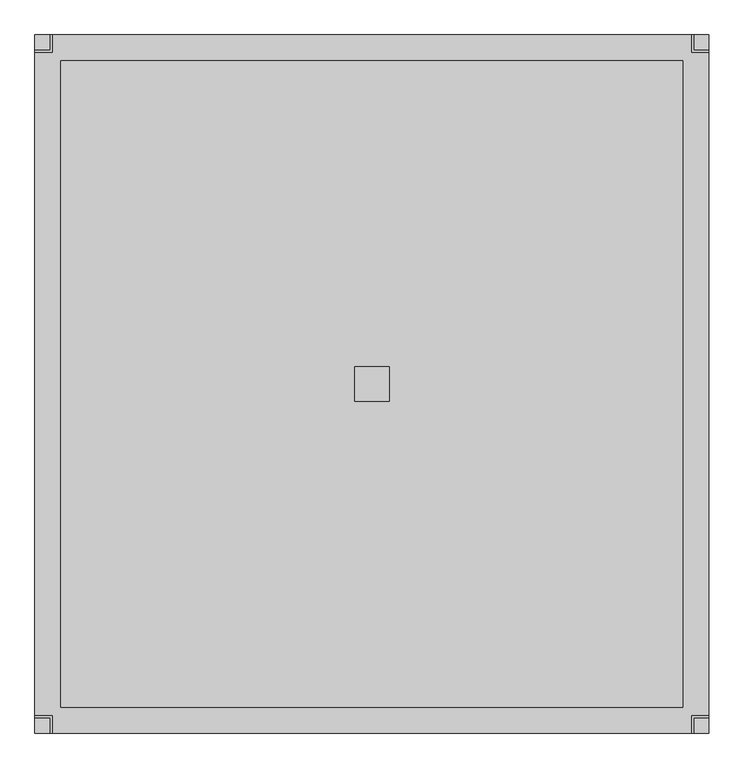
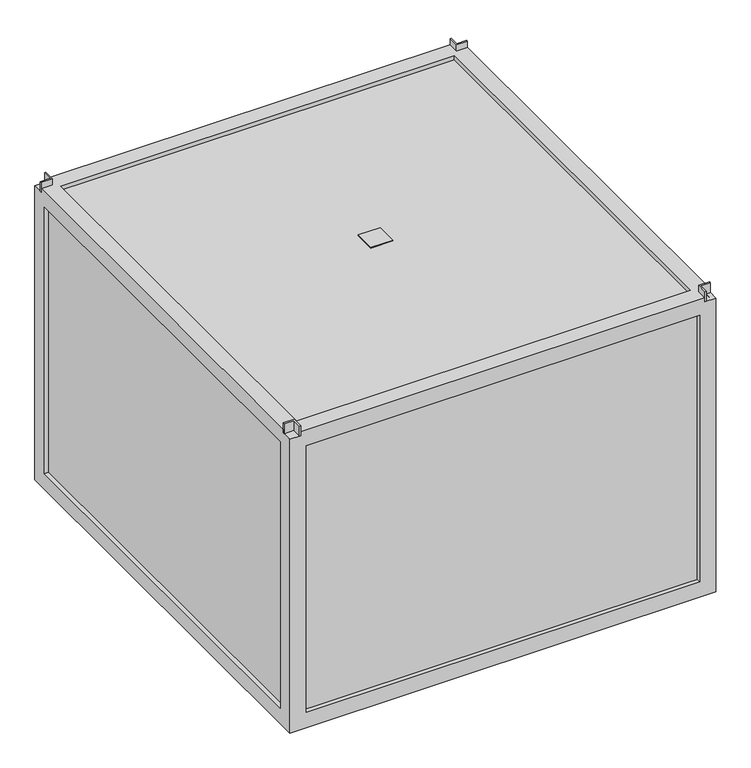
"""IFC4 building model written with IfcOpenShell, lengths in millimetres: proxy geometry, KORF_Вентилятор_UTR_WRH : UTR 80-50 WRH 40.4D."""

import ifcopenshell
import ifcopenshell.guid

model = None  # the IFC model being written
_history = None  # IfcOwnerHistory: only IFC2X3 demands one
_inside = {}  # id of a spatial element -> (the spatial element, [elements in it])
_under = {}  # id of a project, library or spatial element -> (it, [spatial elements below it])
_declared = {}  # id of a project -> (the project, [libraries it declares])
_typed = {}  # id of a type object -> (the type object, [elements of that type])
_made_of = {}  # id of a material, layer set ... -> (it, [elements and type objects made of it])


def new_model(schema):
    """Start an empty IFC model of exactly this schema.

    Asked for "IFC4X3", IfcOpenShell would pick the latest addendum, in which some entities
    have other attributes; the version numbers below select the first issue.
    IFC2X3 requires an IfcOwnerHistory on every rooted entity: one is made here for all.
    """
    global model, _history
    if schema == "IFC4X3":
        model = ifcopenshell.file(schema_version=(4, 3, 0, 0))
    else:
        model = ifcopenshell.file(schema=schema)
    _inside.clear()
    _under.clear()
    _declared.clear()
    _typed.clear()
    _made_of.clear()
    _history = None
    if model.schema == "IFC2X3":
        org = make("IfcOrganization", Name="unknown")
        user = make(
            "IfcPersonAndOrganization",
            ThePerson=make("IfcPerson", FamilyName="unknown"),
            TheOrganization=org,
        )
        app = make(
            "IfcApplication",
            ApplicationDeveloper=org,
            Version="unknown",
            ApplicationFullName="unknown",
            ApplicationIdentifier="unknown",
        )
        _history = make(
            "IfcOwnerHistory",
            OwningUser=user,
            OwningApplication=app,
            ChangeAction="ADDED",
            CreationDate=0,
        )
    return model


def make(cls, **values):
    """One entity of the class cls with the attributes given. An attribute that is None is left unset."""
    return model.create_entity(
        cls, **{name: value for name, value in values.items() if value is not None}
    )


def rooted(cls, **values):
    """An entity with a GlobalId (a new one), such as an element, a storey or a relation."""
    return make(cls, GlobalId=ifcopenshell.guid.new(), OwnerHistory=_history, **values)


def si_unit(unit_type, name, prefix=None):
    """IfcSIUnit, for example si_unit("LENGTHUNIT", "METRE", prefix="MILLI")."""
    return make("IfcSIUnit", UnitType=unit_type, Prefix=prefix, Name=name)


def assignment(units):
    """IfcUnitAssignment: the units of a project."""
    return None if units is None else make("IfcUnitAssignment", Units=units)


def point(xyz):
    """IfcCartesianPoint."""
    return None if xyz is None else make("IfcCartesianPoint", Coordinates=xyz)


def direction(xyz):
    """IfcDirection."""
    return None if xyz is None else make("IfcDirection", DirectionRatios=xyz)


def frame(location, z_axis=None, x_axis=None):
    """IfcAxis2Placement3D, a coordinate frame: its origin and axes. An axis left out is left unset."""
    return make(
        "IfcAxis2Placement3D",
        Location=point(location),
        Axis=direction(z_axis),
        RefDirection=direction(x_axis),
    )


def origin():
    """The frame at (0, 0, 0) with its axes left unset."""
    return frame((0.0, 0.0, 0.0))


def place(relative_to, where):
    """IfcLocalPlacement: puts the frame where relative to a parent placement (None: the world)."""
    return make(
        "IfcLocalPlacement", PlacementRelTo=relative_to, RelativePlacement=where
    )


def context(
    kind, dimensions, precision=None, world=None, true_north=None, identifier=None
):
    """IfcGeometricRepresentationContext, for example the 3D "Model" context."""
    return make(
        "IfcGeometricRepresentationContext",
        ContextIdentifier=identifier,
        ContextType=kind,
        CoordinateSpaceDimension=dimensions,
        Precision=precision,
        WorldCoordinateSystem=world,
        TrueNorth=true_north,
    )


def project(units=None, contexts=None):
    """IfcProject with its units and contexts."""
    return rooted(
        "IfcProject",
        Name="project",
        RepresentationContexts=contexts,
        UnitsInContext=assignment(units),
    )


def spatial(cls, under=None, at=None, **own):
    """A site, building, storey or space (cls), placed at a placement, below another one or the project."""
    s = rooted(cls, ObjectPlacement=at, **own)
    if under is not None:
        _under.setdefault(under.id(), (under, []))[1].append(s)
    return s


def polyline(points):
    """IfcPolyline through the points."""
    return make("IfcPolyline", Points=[point(p) for p in points])


def outline(outer, holes=None, kind="AREA"):
    """IfcArbitraryClosedProfileDef: a profile drawn as a closed curve; with holes, ...WithVoids."""
    if holes is None:
        return make("IfcArbitraryClosedProfileDef", ProfileType=kind, OuterCurve=outer)
    return make(
        "IfcArbitraryProfileDefWithVoids",
        ProfileType=kind,
        OuterCurve=outer,
        InnerCurves=holes,
    )


def extrude(swept, where, along, depth):
    """IfcExtrudedAreaSolid: the profile swept, set in the frame where, extruded along a direction by depth."""
    return make(
        "IfcExtrudedAreaSolid",
        SweptArea=swept,
        Position=where,
        ExtrudedDirection=direction(along),
        Depth=depth,
    )


def faces_of(points, faces, orient=None, outer=None):
    """IfcFace entities. A face is a list of loops; a loop is a list of indices into points, from 0.

    orient and outer hold one flag for each loop. By default every Orientation is true, the
    first loop of a face is its IfcFaceOuterBound and the others are IfcFaceBound.
    """
    made = []
    for i, loops in enumerate(faces):
        bounds = []
        for j, loop in enumerate(loops):
            is_outer = j == 0 if outer is None else outer[i][j]
            bounds.append(
                make(
                    "IfcFaceOuterBound" if is_outer else "IfcFaceBound",
                    Bound=make("IfcPolyLoop", Polygon=[points[k] for k in loop]),
                    Orientation=True if orient is None else orient[i][j],
                )
            )
        made.append(make("IfcFace", Bounds=bounds))
    return made


def faceted_brep(points, faces, orient=None, outer=None, voids=None):
    """IfcFacetedBrep: a solid bounded by flat faces; with voids (closed shells), ...WithVoids."""
    shared = [point(p) for p in points]
    hull = make("IfcClosedShell", CfsFaces=faces_of(shared, faces, orient, outer))
    if voids is None:
        return make("IfcFacetedBrep", Outer=hull)
    return make(
        "IfcFacetedBrepWithVoids",
        Outer=hull,
        Voids=[
            make(cls, CfsFaces=faces_of(shared, fs, o, b)) for cls, fs, o, b in voids
        ],
    )


def shape(context_of_items, identifier, shape_type, items):
    """IfcShapeRepresentation: the items that make up one representation, for example the "Body"."""
    return make(
        "IfcShapeRepresentation",
        ContextOfItems=context_of_items,
        RepresentationIdentifier=identifier,
        RepresentationType=shape_type,
        Items=items,
    )


def source(mapping_origin, context_of_items, identifier, shape_type, items):
    """IfcRepresentationMap: a shape defined once, which mapped items show again and again."""
    return make(
        "IfcRepresentationMap",
        MappingOrigin=mapping_origin,
        MappedRepresentation=shape(context_of_items, identifier, shape_type, items),
    )


def transform(
    local_origin,
    x_axis=None,
    y_axis=None,
    z_axis=None,
    scale=None,
    scale2=None,
    scale3=None,
    uniform=True,
):
    """IfcCartesianTransformationOperator3D, or its non-uniform kind. x_axis, y_axis, z_axis: its Axis1, 2, 3."""
    if uniform:
        return make(
            "IfcCartesianTransformationOperator3D",
            Axis1=direction(x_axis),
            Axis2=direction(y_axis),
            LocalOrigin=point(local_origin),
            Scale=scale,
            Axis3=direction(z_axis),
        )
    return make(
        "IfcCartesianTransformationOperator3DnonUniform",
        Axis1=direction(x_axis),
        Axis2=direction(y_axis),
        LocalOrigin=point(local_origin),
        Scale=scale,
        Axis3=direction(z_axis),
        Scale2=scale2,
        Scale3=scale3,
    )


def mapped(mapping_source, mapping_target):
    """IfcMappedItem: shows the shape of a source again, moved by a transform."""
    return make(
        "IfcMappedItem", MappingSource=mapping_source, MappingTarget=mapping_target
    )


def made_of(thing, what):
    """Note that an element or type object is made of a material, layer set ...; save() writes the relation."""
    if what is not None:
        _made_of.setdefault(what.id(), (what, []))[1].append(thing)
    return thing


def element(
    cls,
    number,
    at=None,
    inside=None,
    cuts=None,
    type_object=None,
    material=None,
    context=None,
    identifier="Body",
    shape_type=None,
    held_by="IfcProductDefinitionShape",
    body=None,
    shapes=None,
    **own,
):
    """One element of the class cls, such as IfcWall. Its Tag is "e" and its number.

    at: its placement. inside: the storey or other place that contains it. cuts: it is an
    opening in that element (IfcRelVoidsElement). A single representation is given by context,
    identifier, shape_type and body (its items); several are given by shapes. held_by: the class
    of the entity that holds the representations. save() writes the other relations.
    """
    e = rooted(cls, Tag="e%d" % number, ObjectPlacement=at, **own)
    if body is not None:
        shapes = [shape(context, identifier, shape_type, body)]
    if shapes is not None:
        e.Representation = make(held_by, Representations=shapes)
    if inside is not None:
        _inside.setdefault(inside.id(), (inside, []))[1].append(e)
    if cuts is not None:
        rooted(
            "IfcRelVoidsElement", RelatingBuildingElement=cuts, RelatedOpeningElement=e
        )
    if type_object is not None:
        _typed.setdefault(type_object.id(), (type_object, []))[1].append(e)
    return made_of(e, material)


def aggregate(whole, parts):
    """IfcRelAggregates: a whole, such as a stair, and the parts it consists of."""
    return rooted("IfcRelAggregates", RelatingObject=whole, RelatedObjects=parts)


def save(model, path):
    """Write the relations noted so far, then the file.

    IfcRelAggregates (storeys below a building ...), IfcRelContainedInSpatialStructure (elements
    in a storey), IfcRelDefinesByType, IfcRelAssociatesMaterial and IfcRelDeclares: one each for
    every whole, place, type object, material and project.
    """
    for whole, parts in _under.values():
        aggregate(whole, parts)
    for where, things in _inside.values():
        rooted(
            "IfcRelContainedInSpatialStructure",
            RelatedElements=things,
            RelatingStructure=where,
        )
    for kind, things in _typed.values():
        rooted("IfcRelDefinesByType", RelatedObjects=things, RelatingType=kind)
    for what, things in _made_of.values():
        rooted("IfcRelAssociatesMaterial", RelatedObjects=things, RelatingMaterial=what)
    for by, libraries in _declared.values():
        rooted("IfcRelDeclares", RelatingContext=by, RelatedDefinitions=libraries)
    model.write(path)


def mechanical_equipment_02dd2566(model_context):
    return source(origin(), model_context, "Body", "SolidModel", [
        extrude(outline(polyline([(462.5, -25.0), (462.5, 25.0), (512.5, 25.0), (512.5, -25.0), (462.5, -25.0)])), frame((0.0, 0.0, 360.0), z_axis=(0.0, 0.0, 1.0), x_axis=(1.0, 0.0, 0.0)), (0.0, 0.0, 1.0), 2.0),
        extrude(outline(polyline([(25.0, 480.0), (0.0, 480.0), (0.0, 483.0), (22.0, 483.0), (22.0, 505.0), (25.0, 505.0), (25.0, 480.0)])), frame((0.0, 0.0, 351.0), z_axis=(0.0, 0.0, 1.0), x_axis=(1.0, 0.0, 0.0)), (0.0, 0.0, 1.0), 24.0),
        extrude(outline(polyline([(950.0, 480.0), (950.0, 505.0), (953.0, 505.0), (953.0, 483.0), (975.0, 483.0), (975.0, 480.0), (950.0, 480.0)])), frame((0.0, 0.0, 351.0), z_axis=(0.0, 0.0, 1.0), x_axis=(1.0, 0.0, 0.0)), (0.0, 0.0, 1.0), 24.0),
        extrude(outline(polyline([(25.0, -480.0), (25.0, -505.0), (22.0, -505.0), (22.0, -483.0), (0.0, -483.0), (0.0, -480.0), (25.0, -480.0)])), frame((0.0, 0.0, 351.0), z_axis=(0.0, 0.0, 1.0), x_axis=(1.0, 0.0, 0.0)), (0.0, 0.0, 1.0), 24.0),
        extrude(outline(polyline([(950.0, -480.0), (975.0, -480.0), (975.0, -483.0), (953.0, -483.0), (953.0, -505.0), (950.0, -505.0), (950.0, -480.0)])), frame((0.0, 0.0, 351.0), z_axis=(0.0, 0.0, 1.0), x_axis=(1.0, 0.0, 0.0)), (0.0, 0.0, 1.0), 24.0),
        extrude(outline(polyline([(965.0, 495.0), (965.0, -495.0), (10.0, -495.0), (10.0, 495.0), (965.0, 495.0)])), frame((0.0, 0.0, -350.0), z_axis=(0.0, 0.0, 1.0), x_axis=(1.0, 0.0, 0.0)), (0.0, 0.0, 1.0), 700.0),
        faceted_brep([(0.0, -504.9999993, -359.9999993), (975.0, -504.9999993, -359.9999993), (974.9999993, -504.9999993, 351.0), (950.0, -504.9999993, 351.0), (950.0, -504.9999993, 360.0), (25.0, -504.9999993, 359.9999993), (25.0, -504.9999993, 351.0), (0.0, -504.9999993, 351.0), (37.5, -504.9999993, -322.4999993), (37.5, -504.9999993, 322.5), (937.4999993, -504.9999993, 322.5), (937.4999993, -504.9999993, -322.4999993), (10.000001, -494.9999993, -349.9999993), (10.000001, -494.9999993, 349.9999993), (964.9999993, -494.9999993, 349.999999), (964.999999, -494.9999993, -349.9999993), (37.5, -494.9999993, 322.5), (37.5, -494.9999993, -322.4999993), (937.4999993, -494.9999993, -322.4999993), (937.4999993, -494.9999993, 322.5), (0.0, -467.4999993, 322.4999993), (10.000001, -467.4999993, 322.4999993), (10.000001, -467.4999993, -322.4999993), (0.0, -467.4999993, -322.4999993), (0.0, 504.9999993, -359.9999993), (975.0, 505.0, -359.9999993), (937.5, -467.5, -359.9999993), (937.5, 467.5, -359.9999993), (37.5, 467.5, -359.9999993), (37.5, -467.5, -359.9999993), (10.000001, 494.9999993, -349.9999993), (964.999999, 494.999999, -349.9999993), (937.5, 467.5, -349.9999993), (937.5, -467.5, -349.9999993), (37.5, -467.5, -349.9999993), (37.5, 467.5, -349.9999993), (10.000001, 467.4999993, -322.4999993), (0.0, 467.4999993, -322.4999993), (0.0, 504.9999993, 351.0), (25.0, 504.9999993, 351.0), (25.0, 504.9999993, 359.9999993), (950.0, 504.9999993, 360.0), (950.0, 504.9999993, 351.0), (974.9999993, 504.9999993, 351.0), (37.5, 504.9999993, 322.5), (37.5, 504.9999993, -322.4999993), (937.4999993, 504.9999993, -322.4999993), (937.4999993, 504.9999993, 322.5), (10.000001, 494.9999993, 349.9999993), (964.9999993, 494.9999993, 349.999999), (37.5, 494.9999993, -322.4999993), (37.5, 494.9999993, 322.5), (937.4999993, 494.9999993, 322.5), (937.4999993, 494.9999993, -322.4999993), (10.000001, 467.4999993, 322.4999993), (0.0, 467.4999993, 322.4999993), (0.0, -480.0, 351.0), (0.0, -480.0, 359.9999993), (0.0, 480.0, 359.9999993), (0.0, 480.0, 351.0), (950.0, -480.0, 359.9999993), (974.9999993, -480.0, 359.9999993), (974.9999993, 480.0, 359.9999993), (950.0, 480.0, 359.9999993), (25.0, 480.0, 359.9999993), (25.0, -480.0, 359.9999993), (937.4999993, 467.4999993, 359.9999993), (937.4999993, -467.4999993, 359.9999993), (37.5000007, -467.4999993, 359.9999993), (37.5, 467.4999993, 359.9999993), (37.5, -467.4999993, 349.9999993), (37.5, 467.4999993, 349.9999993), (937.4999993, -467.4999993, 349.9999993), (937.4999993, 467.4999993, 349.9999993), (974.9999993, 480.0, 351.0), (974.9999993, -480.0, 351.0), (974.9999993, -467.5, -322.5), (974.9999993, -467.5, 322.5), (974.9999993, 467.5, 322.5), (974.9999993, 467.5, -322.5), (964.9999993, -467.5, 322.5), (964.9999993, -467.5, -322.5), (964.9999993, 467.5, -322.4999993), (964.9999993, 467.5, 322.5), (25.0, 480.0, 351.0), (950.0, 480.0, 351.0), (950.0, -480.0, 351.0), (25.0, -480.0, 351.0)], [[[0, 1, 2, 3, 4, 5, 6, 7], [8, 9, 10, 11]], [[12, 13, 14, 15], [16, 17, 18, 19]], [[20, 21, 22, 23]], [[0, 24, 25, 1], [26, 27, 28, 29]], [[30, 12, 15, 31], [32, 33, 34, 35]], [[23, 22, 36, 37]], [[25, 24, 38, 39, 40, 41, 42, 43], [44, 45, 46, 47]], [[48, 30, 31, 49], [50, 51, 52, 53]], [[37, 36, 54, 55]], [[24, 0, 7, 56, 57, 58, 59, 38], [20, 23, 37, 55]], [[5, 4, 60, 61, 62, 63, 41, 40, 64, 58, 57, 65], [66, 67, 68, 69]], [[35, 34, 29, 28]], [[69, 68, 70, 71]], [[16, 9, 8, 17]], [[44, 51, 50, 45]], [[13, 48, 49, 14], [72, 73, 71, 70]], [[12, 30, 48, 13], [22, 21, 54, 36]], [[21, 20, 55, 54]], [[1, 25, 43, 74, 62, 61, 75, 2], [76, 77, 78, 79]], [[14, 49, 31, 15], [80, 81, 82, 83]], [[66, 73, 72, 67]], [[67, 72, 70, 68]], [[9, 16, 19, 10]], [[51, 44, 47, 52]], [[80, 83, 78, 77]], [[73, 66, 69, 71]], [[32, 27, 26, 33]], [[33, 26, 29, 34]], [[27, 32, 35, 28]], [[17, 8, 11, 18]], [[45, 50, 53, 46]], [[76, 79, 82, 81]], [[77, 76, 81, 80]], [[79, 78, 83, 82]], [[11, 10, 19, 18]], [[47, 46, 53, 52]], [[59, 84, 39, 38]], [[42, 85, 74, 43]], [[75, 86, 3, 2]], [[87, 56, 7, 6]], [[84, 59, 58, 64]], [[39, 84, 64, 40]], [[85, 42, 41, 63]], [[74, 85, 63, 62]], [[86, 75, 61, 60]], [[3, 86, 60, 4]], [[56, 87, 65, 57]], [[87, 6, 5, 65]]]),
    ])


if __name__ == "__main__":
    model = new_model("IFC4")
    model_context = context("Model", 3, world=origin())
    ifc_project = project(units=[si_unit("LENGTHUNIT", "METRE", prefix="MILLI")], contexts=[model_context])
    site = spatial("IfcSite", under=ifc_project)
    building = spatial("IfcBuilding", under=site)
    placement = place(None, origin())
    mechanical_equipment_shape = mechanical_equipment_02dd2566(model_context)
    element("IfcBuildingElementProxy", 1, Name="KORF_Вентилятор_UTR_WRH : UTR 80-50 WRH 40.4D", ObjectType="KORF_Вентилятор_UTR_WRH : UTR 80-50 WRH 40.4D", at=placement, inside=building, context=model_context, shape_type="MappedRepresentation", body=[
        mapped(mechanical_equipment_shape, transform((0.0, 0.0, 0.0), x_axis=(1.0, 0.0, 0.0), y_axis=(0.0, 1.0, 0.0), z_axis=(0.0, 0.0, 1.0))),
    ])
    save(model, "model.ifc")
